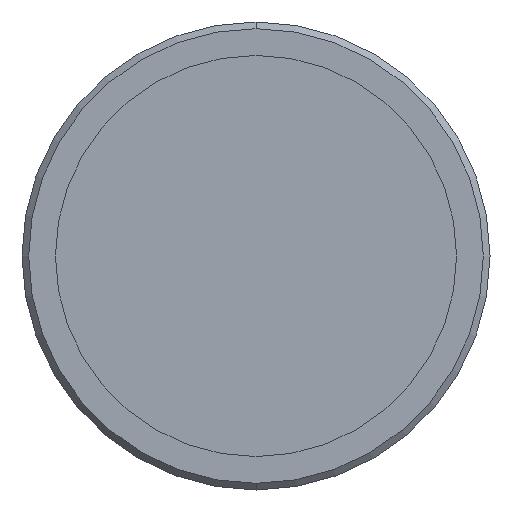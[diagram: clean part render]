
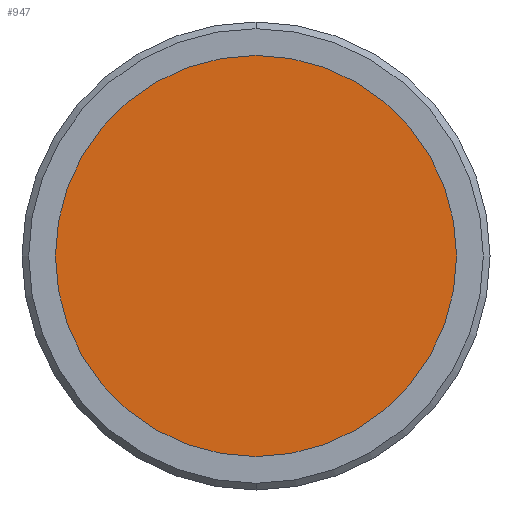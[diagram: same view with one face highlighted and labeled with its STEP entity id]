
A CAD part, front view. The second image highlights one B-rep face of the part: STEP entity #947.
In plain terms, the highlighted planar face has unit normal (0, -1, 0).
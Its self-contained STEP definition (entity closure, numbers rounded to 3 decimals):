
#70 = CARTESIAN_POINT ( 'NONE',  ( 0., -9., -15. ) ) ;
#77 = AXIS2_PLACEMENT_3D ( 'NONE', #211, #153, #141 ) ;
#101 = AXIS2_PLACEMENT_3D ( 'NONE', #209, #883, #1091 ) ;
#139 = DIRECTION ( 'NONE',  ( 0., 1., 0. ) ) ;
#141 = DIRECTION ( 'NONE',  ( 0., 0., 1. ) ) ;
#153 = DIRECTION ( 'NONE',  ( 0., 1., 0. ) ) ;
#209 = CARTESIAN_POINT ( 'NONE',  ( 0., -9., 0. ) ) ;
#211 = CARTESIAN_POINT ( 'NONE',  ( 0., -9., 0. ) ) ;
#213 = CIRCLE ( 'NONE', #365, 15. ) ;
#255 = VERTEX_POINT ( 'NONE', #70 ) ;
#365 = AXIS2_PLACEMENT_3D ( 'NONE', #634, #139, #483 ) ;
#391 = VERTEX_POINT ( 'NONE', #646 ) ;
#483 = DIRECTION ( 'NONE',  ( 0., 0., 1. ) ) ;
#634 = CARTESIAN_POINT ( 'NONE',  ( 0., -9., 0. ) ) ;
#646 = CARTESIAN_POINT ( 'NONE',  ( 0., -9., 15. ) ) ;
#656 = CIRCLE ( 'NONE', #77, 15. ) ;
#704 = EDGE_CURVE ( 'NONE', #255, #391, #656, .T. ) ;
#712 = EDGE_CURVE ( 'NONE', #391, #255, #213, .T. ) ;
#790 = PLANE ( 'NONE',  #101 ) ;
#839 = ORIENTED_EDGE ( 'NONE', *, *, #704, .F. ) ;
#875 = EDGE_LOOP ( 'NONE', ( #1087, #839 ) ) ;
#883 = DIRECTION ( 'NONE',  ( 0., -1., 0. ) ) ;
#947 = ADVANCED_FACE ( 'NONE', ( #965 ), #790, .T. ) ;
#965 = FACE_OUTER_BOUND ( 'NONE', #875, .T. ) ;
#1087 = ORIENTED_EDGE ( 'NONE', *, *, #712, .F. ) ;
#1091 = DIRECTION ( 'NONE',  ( 0., 0., -1. ) ) ;
